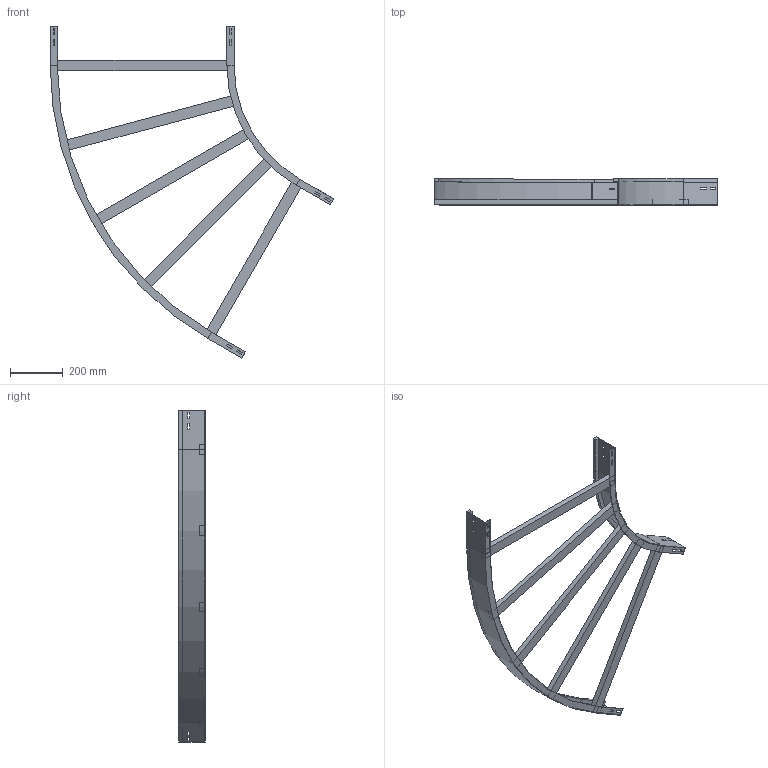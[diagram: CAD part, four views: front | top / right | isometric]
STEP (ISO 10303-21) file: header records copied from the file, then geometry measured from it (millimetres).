
FILE_DESCRIPTION (( 'STEP AP214' ), '1' );
FILE_NAME ('13B5D700.step', '2025-02-21T15:17:22', ( '' ), ( '' ), 'SwSTEP 2.0', 'SolidWorks 2023', '' );
FILE_SCHEMA (( 'AUTOMOTIVE_DESIGN' ));
Length unit declared in the file: millimetre
Products named in the file (4): A2_LONGH.ESTERNO 60°_H100_R500+700; A2_LONGH.INTERNO 60°_H100_R500; 13B5D700; TRAVERSINO_700
Assembly tree (7 placements, depth 2):
  13B5D700
    A2_LONGH.INTERNO 60°_H100_R500
    A2_LONGH.ESTERNO 60°_H100_R500+700
    TRAVERSINO_700  x5
Bounding box: 1079.9 x 100 x 1264.23 mm (x, y, z)
Volume: 3865936.2 mm3; surface area: 1108623.4 mm2
Topology: 7 solids, 7 shells, 146 faces, 364 edges, 232 vertices
Faces by surface type: plane 138, cylinder 8
Entity records: 3837 total; most frequent: CARTESIAN_POINT 648, ORIENTED_EDGE 632, DIRECTION 596, EDGE_CURVE 316, VECTOR 300, LINE 300, VERTEX_POINT 200, EDGE_LOOP 154
